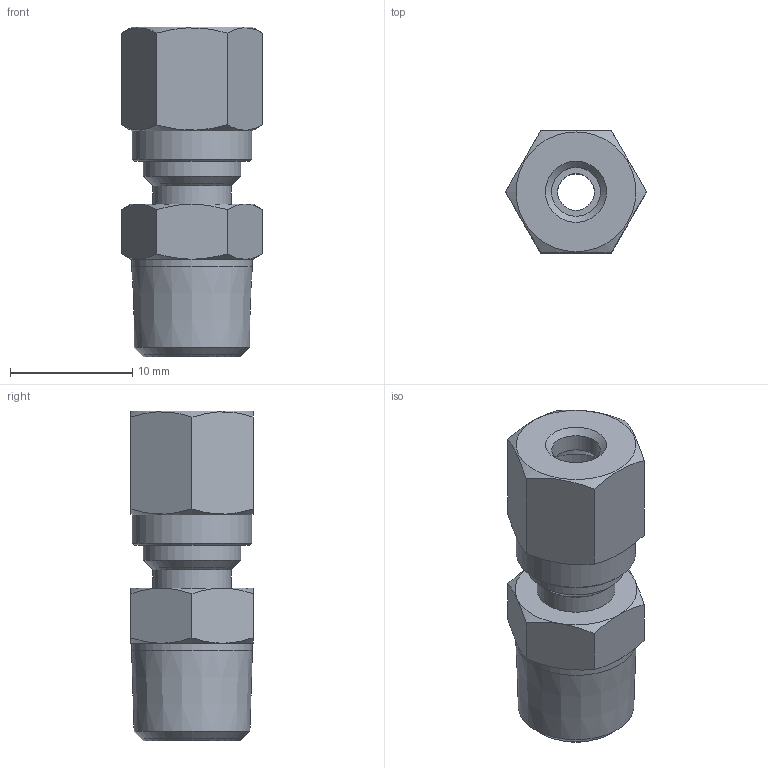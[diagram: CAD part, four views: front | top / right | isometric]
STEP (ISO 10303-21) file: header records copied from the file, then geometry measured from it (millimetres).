
FILE_DESCRIPTION(('Bauteilbeschreibung','HiCAD-Model','HiCAD-STEP-TRANSLATION','Bauteilbeschreibung'),'2;1');
FILE_NAME('B:/ABGLEICH/ZEICHNUNGEN/STEP FÜR INTERNET/STEP/201/94801_201_4_1-8.STP','2011-10-21T12:06:22+00:00',('Konstrukteur'),('Konstrukteur Firma GmbH'),' HiCAD neXt 2008, Step 3.1.1401.2J ','HiCAD neXt 2008','confidential');
FILE_SCHEMA(('AUTOMOTIVE_DESIGN { 1 2 10303 214 0 1 1 1 }'));
Length unit declared in the file: millimetre
Products named in the file (8): A4801_201_4_1_8; A6801_210_4_M8X1; A68010210040M8X1; DIN 13_M8X1; A4801; A48010; R 1_8; DIN0130M8X1
Assembly tree (7 placements, depth 3):
  A4801_201_4_1_8
    A6801_210_4_M8X1
    A68010210040M8X1
      DIN 13_M8X1
    A4801
    A48010
      R 1_8
      DIN0130M8X1
Bounding box: 11.55 x 10 x 27 mm (x, y, z)
Volume: 1712.6 mm3; surface area: 2685.9 mm2
Topology: 5 solids, 5 shells, 64 faces, 138 edges, 86 vertices
Faces by surface type: cone 28, plane 24, cylinder 12
Full cylindrical faces by diameter (mm): 3 x1, 4 x2, 6.4 x1, 6.773 x3, 8 x3, 9.8 x1, 9.884 x1
Entity records: 2163 total; most frequent: CARTESIAN_POINT 322, DIRECTION 268, ORIENTED_EDGE 196, AXIS2_PLACEMENT_3D 128, EDGE_LOOP 104, COLOUR_RGB 103, PRESENTATION_STYLE_ASSIGNMENT 103, CURVE_STYLE 98
